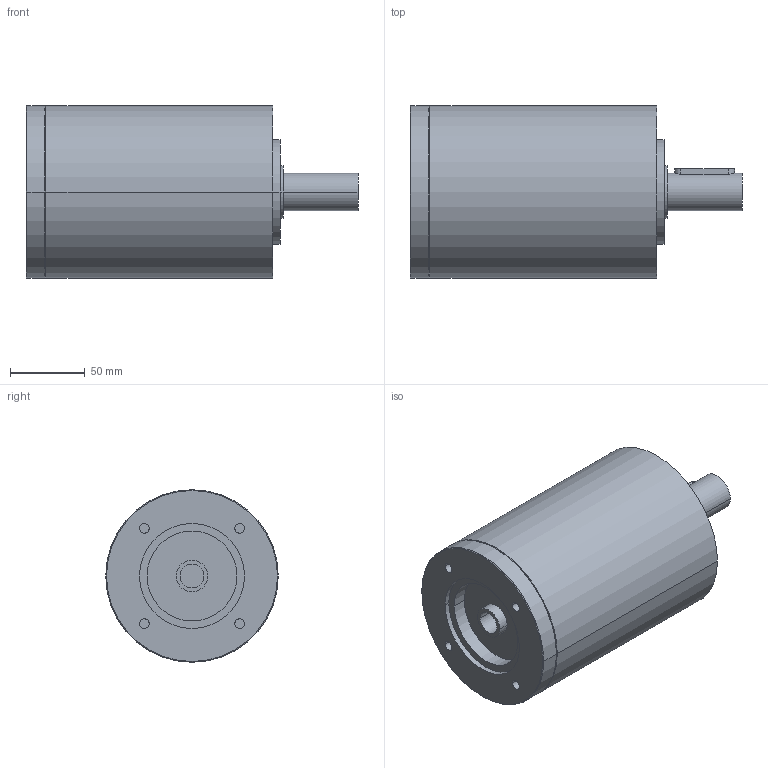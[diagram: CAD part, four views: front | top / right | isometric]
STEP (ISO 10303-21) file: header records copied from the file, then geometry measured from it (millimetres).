
FILE_DESCRIPTION(('CoCreate Modeling STEP Export'),'2;1');
FILE_NAME('GPR125_ig-9-12-16-20-28-35_25_B14_15.87_P17.stp','2014-08-26T14:10:08',(''),(''),'CoCreate Modeling STEP processor for AP214 (Solid Model)','CoCreate Modeling 16.00C 25-Feb-2009 (C) Parametric Technology GmbH','');
FILE_SCHEMA(('AUTOMOTIVE_DESIGN { 1 0 10303 214 1 1 1 1 }'));
Length unit declared in the file: millimetre
Products named in the file (2): GPR125_ig-9-12-16-20-28-35_25_B14_15.87_P17
Assembly tree (1 placements, depth 2):
  GPR125_ig-9-12-16-20-28-35_25_B14_15.87_P17
    GPR125_ig-9-12-16-20-28-35_25_B14_15.87_P17
Bounding box: 221.4 x 115 x 115 mm (x, y, z)
Volume: 1702066.6 mm3; surface area: 94385.2 mm2
Topology: 1 solids, 1 shells, 67 faces, 164 edges, 114 vertices
Faces by surface type: cylinder 38, plane 21, cone 8
Entity records: 1690 total; most frequent: ORIENTED_EDGE 324, CARTESIAN_POINT 318, DIRECTION 220, EDGE_CURVE 162, VERTEX_POINT 114, AXIS2_PLACEMENT_3D 84, EDGE_LOOP 84, FACE_OUTER_BOUND 67
